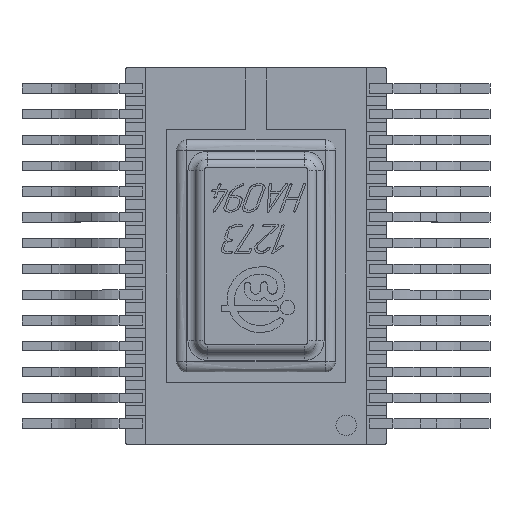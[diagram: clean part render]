
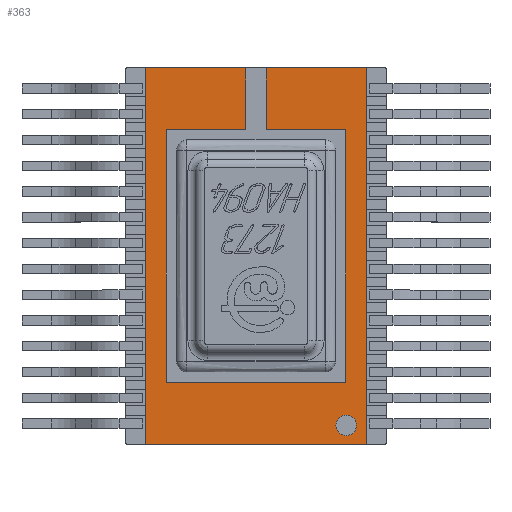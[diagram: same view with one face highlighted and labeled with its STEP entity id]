
A CAD part, top view. The second image highlights one B-rep face of the part: STEP entity #363.
In plain terms, the highlighted planar face has unit normal (0, 0, 1).
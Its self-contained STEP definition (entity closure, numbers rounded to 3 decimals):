
#363=ADVANCED_FACE('',(#10272),#10274,.T.);
#10272=FACE_BOUND('',#10273,.T.);
#10273=EDGE_LOOP('',(#18546,#18547,#18548,#18549));
#10274=PLANE('',#10275);
#10275=AXIS2_PLACEMENT_3D('',#10276,#10277,#10278);
#10276=CARTESIAN_POINT('',(0.,0.,2.));
#10277=DIRECTION('',(0.,0.,1.));
#10278=DIRECTION('',(1.,0.,0.));
#18546=ORIENTED_EDGE('',*,*,#24678,.T.);
#18547=ORIENTED_EDGE('',*,*,#24679,.T.);
#18548=ORIENTED_EDGE('',*,*,#24680,.T.);
#18549=ORIENTED_EDGE('',*,*,#24681,.T.);
#24678=EDGE_CURVE('',#27666,#27667,#27668,.F.);
#24679=EDGE_CURVE('',#27667,#27669,#27670,.T.);
#24680=EDGE_CURVE('',#27669,#27671,#27672,.F.);
#24681=EDGE_CURVE('',#27671,#27666,#27673,.T.);
#27666=VERTEX_POINT('',#32622);
#27667=VERTEX_POINT('',#32623);
#27668=LINE('',#32624,#32625);
#27669=VERTEX_POINT('',#32627);
#27670=LINE('',#32628,#32629);
#27671=VERTEX_POINT('',#32631);
#27672=LINE('',#32632,#32633);
#27673=LINE('',#32635,#32636);
#32622=CARTESIAN_POINT('',(-5.35,9.125,2.));
#32623=CARTESIAN_POINT('',(-5.35,-9.125,2.));
#32624=CARTESIAN_POINT('',(-5.35,-9.125,2.));
#32625=VECTOR('',#32626,1.);
#32626=DIRECTION('',(0.,1.,0.));
#32627=CARTESIAN_POINT('',(5.35,-9.125,2.));
#32628=CARTESIAN_POINT('',(-5.35,-9.125,2.));
#32629=VECTOR('',#32630,1.);
#32630=DIRECTION('',(1.,0.,0.));
#32631=CARTESIAN_POINT('',(5.35,9.125,2.));
#32632=CARTESIAN_POINT('',(5.35,9.125,2.));
#32633=VECTOR('',#32634,1.);
#32634=DIRECTION('',(0.,-1.,0.));
#32635=CARTESIAN_POINT('',(5.35,9.125,2.));
#32636=VECTOR('',#32637,1.);
#32637=DIRECTION('',(-1.,0.,0.));
